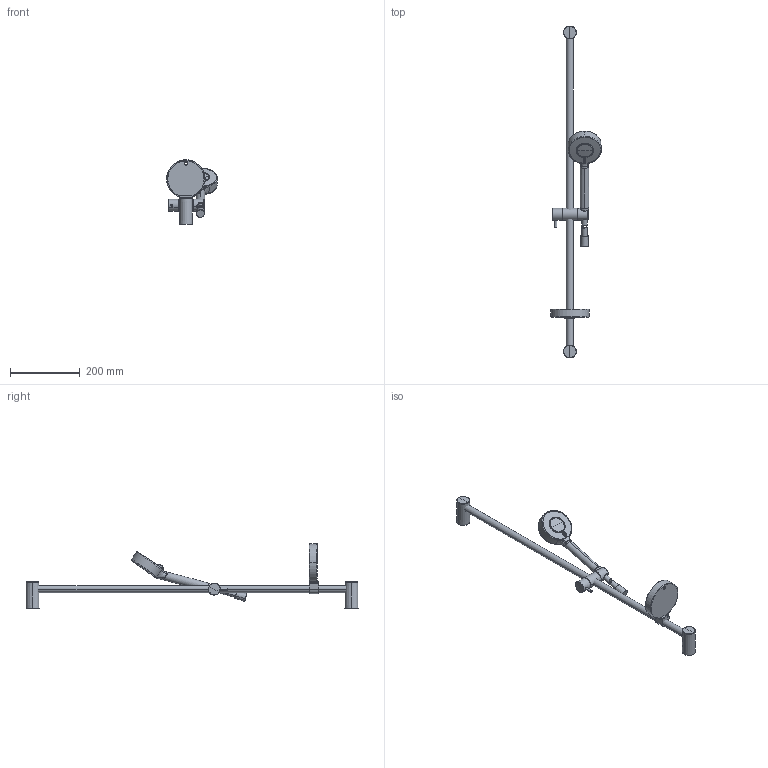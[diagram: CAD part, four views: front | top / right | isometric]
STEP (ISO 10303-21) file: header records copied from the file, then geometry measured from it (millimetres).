
FILE_DESCRIPTION (( 'STEP AP203' ), '1' );
FILE_NAME ('44150130(2021).STEP', '2021-04-27T07:03:29', ( '' ), ( '' ), 'SwSTEP 2.0', 'SolidWorks 2016', '' );
FILE_SCHEMA (( 'CONFIG_CONTROL_DESIGN' ));
Length unit declared in the file: millimetre
Products named in the file (1): 44150130(2021)
Bounding box: 145.61 x 952.49 x 185.25 mm (x, y, z)
Volume: 951011 mm3; surface area: 178544.9 mm2
Topology: 10 solids, 10 shells, 261 faces, 640 edges, 389 vertices
Faces by surface type: bspline 75, cylinder 58, plane 47, torus 44, sphere 19, cone 18
Entity records: 18510 total; most frequent: CARTESIAN_POINT 13073, ORIENTED_EDGE 1208, DIRECTION 965, EDGE_CURVE 604, AXIS2_PLACEMENT_3D 416, VERTEX_POINT 373, EDGE_LOOP 271, ADVANCED_FACE 260
